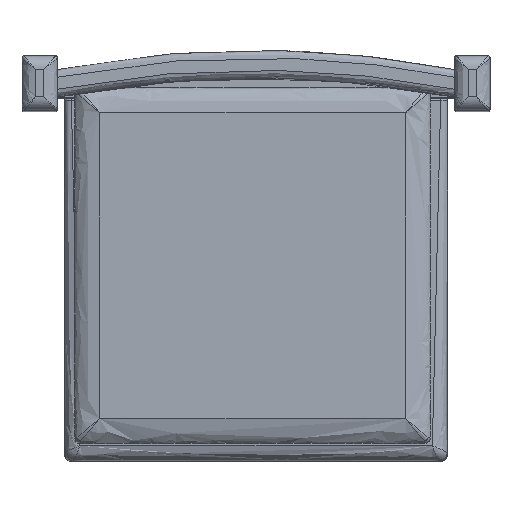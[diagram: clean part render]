
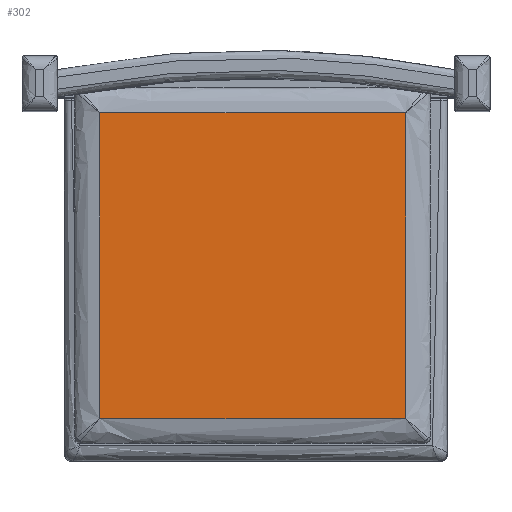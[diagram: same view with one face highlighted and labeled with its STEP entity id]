
A CAD part, top view. The second image highlights one B-rep face of the part: STEP entity #302.
In plain terms, the highlighted planar face has unit normal (0, 0, 1).
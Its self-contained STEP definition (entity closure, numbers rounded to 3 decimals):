
#302=ADVANCED_FACE('',(#519),#3658,.T.);
#519=FACE_OUTER_BOUND('',#736,.T.);
#736=EDGE_LOOP('',(#1171,#1172,#1173,#1174));
#1171=ORIENTED_EDGE('',*,*,#2267,.F.);
#1172=ORIENTED_EDGE('',*,*,#2203,.F.);
#1173=ORIENTED_EDGE('',*,*,#2296,.F.);
#1174=ORIENTED_EDGE('',*,*,#2231,.F.);
#2203=EDGE_CURVE('',#3257,#3281,#2821,.T.);
#2231=EDGE_CURVE('',#3330,#3297,#2849,.T.);
#2267=EDGE_CURVE('',#3281,#3330,#2885,.T.);
#2296=EDGE_CURVE('',#3297,#3257,#2914,.T.);
#2821=B_SPLINE_CURVE_WITH_KNOTS('',1,(#9014,#9015),.UNSPECIFIED.,.F.,.F.,
(2,2),(0.,223.541),.UNSPECIFIED.);
#2849=B_SPLINE_CURVE_WITH_KNOTS('',1,(#9405,#9406),.UNSPECIFIED.,.F.,.F.,
(2,2),(0.,223.541),.UNSPECIFIED.);
#2885=B_SPLINE_CURVE_WITH_KNOTS('',1,(#9715,#9716),.UNSPECIFIED.,.F.,.F.,
(2,2),(0.,223.541),.UNSPECIFIED.);
#2914=B_SPLINE_CURVE_WITH_KNOTS('',1,(#10086,#10087),.UNSPECIFIED.,.F.,
 .F.,(2,2),(0.,223.541),.UNSPECIFIED.);
#3257=VERTEX_POINT('',#8112);
#3281=VERTEX_POINT('',#8136);
#3297=VERTEX_POINT('',#8152);
#3330=VERTEX_POINT('',#8185);
#3658=PLANE('',#3792);
#3792=AXIS2_PLACEMENT_3D('',#8111,#3869,$);
#3869=DIRECTION('',(0.,0.,1.));
#8111=CARTESIAN_POINT('',(-136.744,-151.245,269.998));
#8112=CARTESIAN_POINT('',(109.271,94.77,269.998));
#8136=CARTESIAN_POINT('',(109.271,-128.771,269.998));
#8152=CARTESIAN_POINT('',(-114.27,94.77,269.998));
#8185=CARTESIAN_POINT('',(-114.27,-128.771,269.998));
#9014=CARTESIAN_POINT('',(109.271,94.77,269.998));
#9015=CARTESIAN_POINT('',(109.271,-128.771,269.998));
#9405=CARTESIAN_POINT('',(-114.27,-128.771,269.998));
#9406=CARTESIAN_POINT('',(-114.27,94.77,269.998));
#9715=CARTESIAN_POINT('',(109.271,-128.771,269.998));
#9716=CARTESIAN_POINT('',(-114.27,-128.771,269.998));
#10086=CARTESIAN_POINT('',(-114.27,94.77,269.998));
#10087=CARTESIAN_POINT('',(109.271,94.77,269.998));
